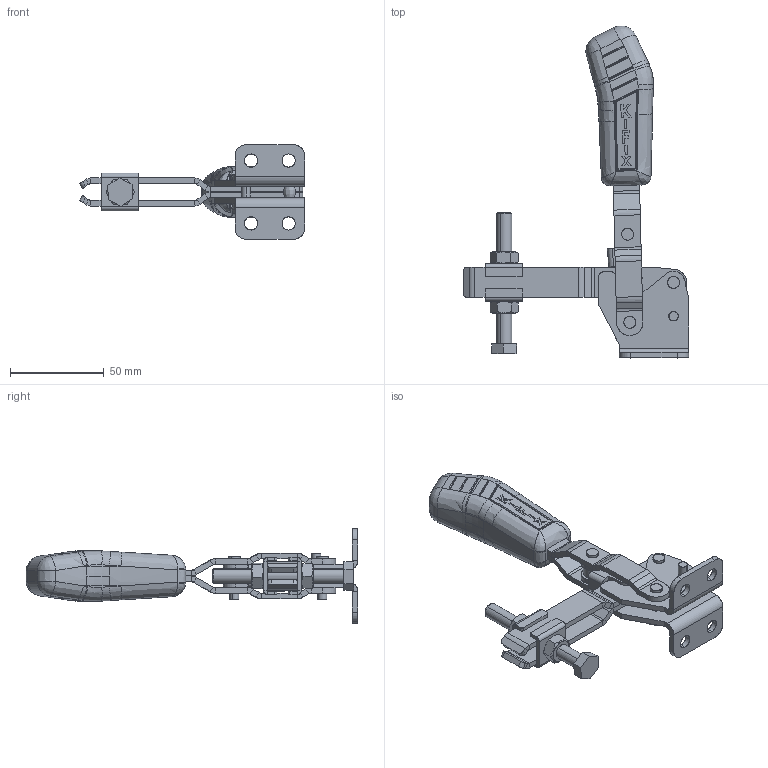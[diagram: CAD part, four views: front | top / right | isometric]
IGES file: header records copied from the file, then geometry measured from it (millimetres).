
Start section: SolidWorks IGES file using analytic representation for surfaces
Global section: file name: C:\Projetos\Grampos\KF-018\KF-018 DB\KF-018 DB.IGS; native system: SolidWorks 2015; preprocessor: SolidWorks 2015; author: Ricardo; date: 160226.084011; units: millimetre
Bounding box: 119.9 x 176.75 x 50.5 mm (x, y, z)
Surface area: 51909.8 mm2 (no closed solid volume)
Topology: 0 solids, 0 shells, 802 faces, 8403 edges, 8390 vertices
Faces by surface type: bspline 519, revolution 283
